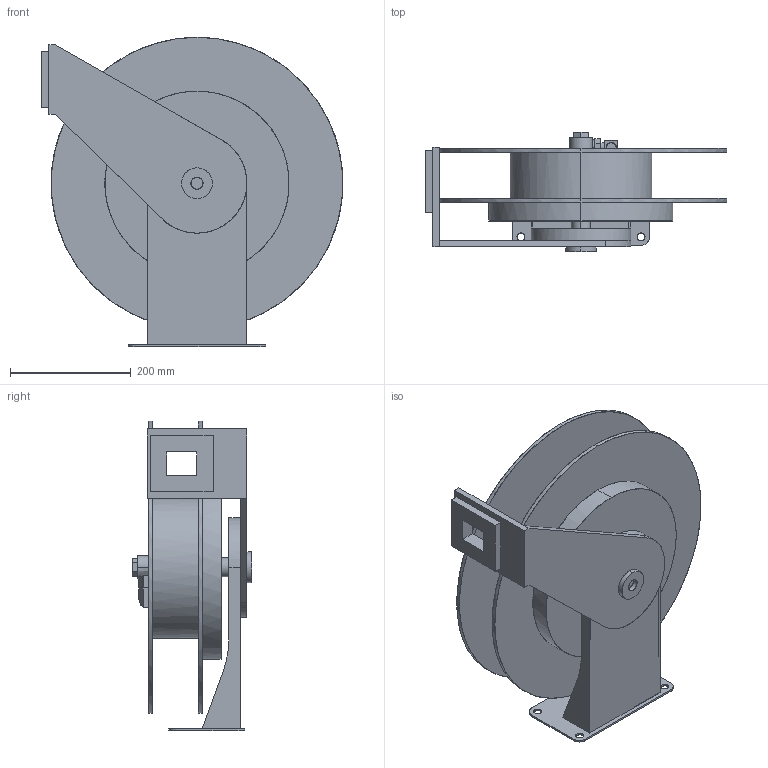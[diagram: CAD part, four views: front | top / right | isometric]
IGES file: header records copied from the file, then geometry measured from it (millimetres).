
Start section: Comment
Global section: file name: TH7000 SW.igs; native system:  By UGS Corp.; preprocessor: XPlus GENERIC/IGES 3.0; author: Author; organization: Title; date: 20120614.075553; units: millimetre
Bounding box: 498.64 x 197.43 x 511.56 mm (x, y, z)
Surface area: 1175536.3 mm2 (no closed solid volume)
Topology: 0 solids, 0 shells, 217 faces, 1064 edges, 1064 vertices
Faces by surface type: bspline 217
